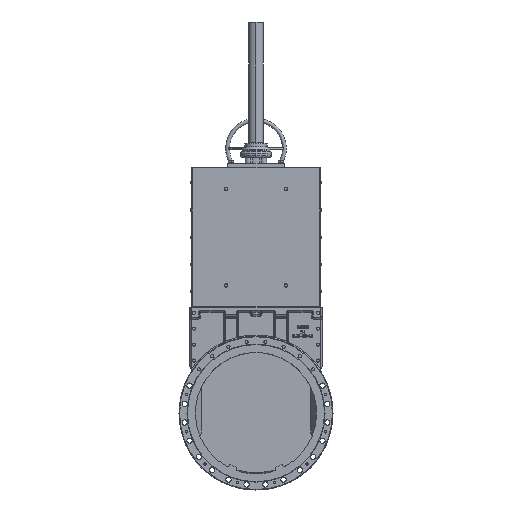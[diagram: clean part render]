
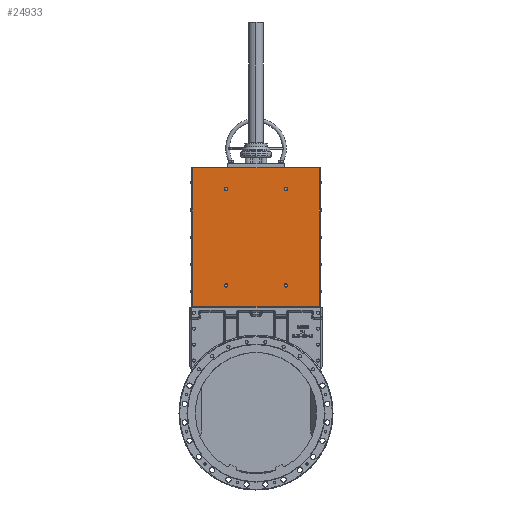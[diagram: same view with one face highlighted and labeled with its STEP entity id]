
A CAD part, top view. The second image highlights one B-rep face of the part: STEP entity #24933.
In plain terms, the highlighted planar face has unit normal (0, 0, 1).
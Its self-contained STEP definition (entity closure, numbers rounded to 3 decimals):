
#14113=LINE('',#77703,#16598);
#15839=LINE('',#98499,#18546);
#15840=LINE('',#98502,#18547);
#15841=LINE('',#98504,#18548);
#15842=LINE('',#98505,#18549);
#15843=LINE('',#98507,#18550);
#16598=VECTOR('',#65045,1.);
#18546=VECTOR('',#72805,1.);
#18547=VECTOR('',#72806,1.);
#18548=VECTOR('',#72807,1.);
#18549=VECTOR('',#72808,1.);
#18550=VECTOR('',#72809,1.);
#20201=PLANE('',#62829);
#24933=ADVANCED_FACE('',(#28333,#28334,#28335,#28336,#28337),#20201,.T.);
#28333=FACE_BOUND('',#32053,.T.);
#28334=FACE_BOUND('',#32054,.T.);
#28335=FACE_BOUND('',#32055,.T.);
#28336=FACE_BOUND('',#32056,.T.);
#28337=FACE_BOUND('',#32057,.T.);
#32053=EDGE_LOOP('',(#42498));
#32054=EDGE_LOOP('',(#42499));
#32055=EDGE_LOOP('',(#42500));
#32056=EDGE_LOOP('',(#42501));
#32057=EDGE_LOOP('',(#42502,#42503,#42504,#42505,#42506,#42507));
#42498=ORIENTED_EDGE('',*,*,#55687,.T.);
#42499=ORIENTED_EDGE('',*,*,#55688,.T.);
#42500=ORIENTED_EDGE('',*,*,#55689,.T.);
#42501=ORIENTED_EDGE('',*,*,#55690,.T.);
#42502=ORIENTED_EDGE('',*,*,#55691,.F.);
#42503=ORIENTED_EDGE('',*,*,#55692,.T.);
#42504=ORIENTED_EDGE('',*,*,#55693,.F.);
#42505=ORIENTED_EDGE('',*,*,#51300,.F.);
#42506=ORIENTED_EDGE('',*,*,#55694,.F.);
#42507=ORIENTED_EDGE('',*,*,#55695,.T.);
#46769=VERTEX_POINT('',#77701);
#46771=VERTEX_POINT('',#77704);
#49810=VERTEX_POINT('',#98492);
#49811=VERTEX_POINT('',#98494);
#49812=VERTEX_POINT('',#98496);
#49813=VERTEX_POINT('',#98498);
#49814=VERTEX_POINT('',#98500);
#49815=VERTEX_POINT('',#98501);
#49816=VERTEX_POINT('',#98503);
#49817=VERTEX_POINT('',#98506);
#51300=EDGE_CURVE('',#46769,#46771,#14113,.T.);
#55687=EDGE_CURVE('',#49810,#49810,#58961,.T.);
#55688=EDGE_CURVE('',#49811,#49811,#58962,.T.);
#55689=EDGE_CURVE('',#49812,#49812,#58963,.T.);
#55690=EDGE_CURVE('',#49813,#49813,#58964,.T.);
#55691=EDGE_CURVE('',#49814,#49815,#15839,.T.);
#55692=EDGE_CURVE('',#49814,#49816,#15840,.T.);
#55693=EDGE_CURVE('',#46771,#49816,#15841,.T.);
#55694=EDGE_CURVE('',#49817,#46769,#15842,.T.);
#55695=EDGE_CURVE('',#49817,#49815,#15843,.T.);
#58961=CIRCLE('',#62825,12.);
#58962=CIRCLE('',#62826,12.);
#58963=CIRCLE('',#62827,12.);
#58964=CIRCLE('',#62828,12.);
#62825=AXIS2_PLACEMENT_3D('',#98491,#72797,#72798);
#62826=AXIS2_PLACEMENT_3D('',#98493,#72799,#72800);
#62827=AXIS2_PLACEMENT_3D('',#98495,#72801,#72802);
#62828=AXIS2_PLACEMENT_3D('',#98497,#72803,#72804);
#62829=AXIS2_PLACEMENT_3D('',#98508,#72810,#72811);
#65045=DIRECTION('',(1.,0.,0.));
#72797=DIRECTION('',(0.,0.,-1.));
#72798=DIRECTION('',(1.,0.,0.));
#72799=DIRECTION('',(0.,0.,-1.));
#72800=DIRECTION('',(0.,-1.,0.));
#72801=DIRECTION('',(0.,0.,-1.));
#72802=DIRECTION('',(0.,-1.,0.));
#72803=DIRECTION('',(0.,0.,-1.));
#72804=DIRECTION('',(1.,0.,0.));
#72805=DIRECTION('',(-1.,0.,0.));
#72806=DIRECTION('',(0.,1.,0.));
#72807=DIRECTION('',(1.,0.,0.));
#72808=DIRECTION('',(1.,0.,0.));
#72809=DIRECTION('',(0.,-1.,0.));
#72810=DIRECTION('',(0.,0.,1.));
#72811=DIRECTION('',(1.,0.,0.));
#77701=CARTESIAN_POINT('',(-190.,1620.,107.));
#77703=CARTESIAN_POINT('',(0.,1620.,107.));
#77704=CARTESIAN_POINT('',(190.,1620.,107.));
#98491=CARTESIAN_POINT('',(197.,843.,107.));
#98492=CARTESIAN_POINT('',(209.,843.,107.));
#98493=CARTESIAN_POINT('',(-197.,843.,107.));
#98494=CARTESIAN_POINT('',(-197.,831.,107.));
#98495=CARTESIAN_POINT('',(-197.,1480.,107.));
#98496=CARTESIAN_POINT('',(-197.,1468.,107.));
#98497=CARTESIAN_POINT('',(197.,1480.,107.));
#98498=CARTESIAN_POINT('',(209.,1480.,107.));
#98499=CARTESIAN_POINT('',(0.,703.,107.));
#98500=CARTESIAN_POINT('',(417.75,703.,107.));
#98501=CARTESIAN_POINT('',(-417.75,703.,107.));
#98502=CARTESIAN_POINT('',(417.75,1101.5,107.));
#98503=CARTESIAN_POINT('',(417.75,1620.,107.));
#98504=CARTESIAN_POINT('',(0.,1620.,107.));
#98505=CARTESIAN_POINT('',(0.,1620.,107.));
#98506=CARTESIAN_POINT('',(-417.75,1620.,107.));
#98507=CARTESIAN_POINT('',(-417.75,1101.5,107.));
#98508=CARTESIAN_POINT('',(0.,1101.5,107.));
